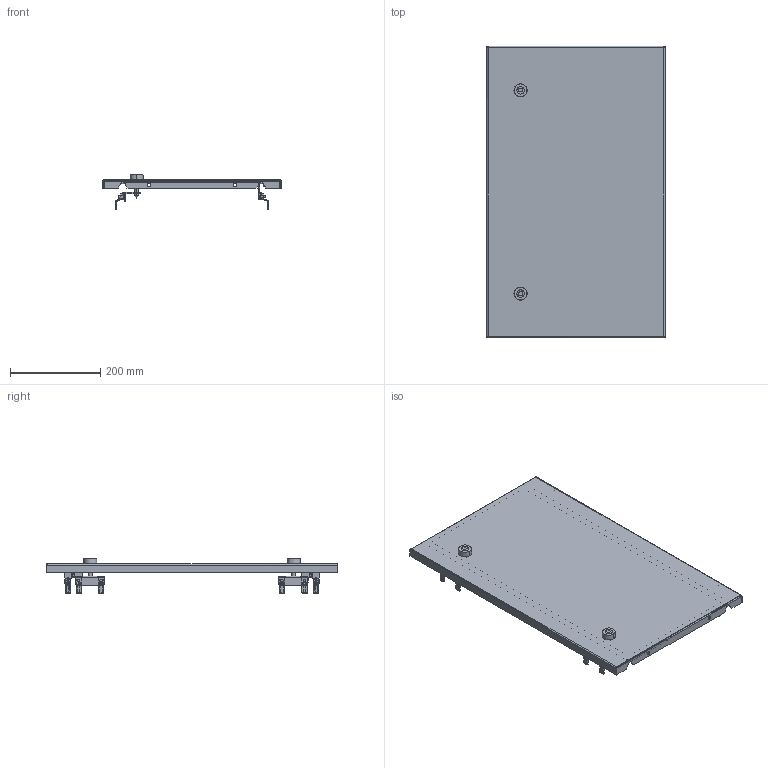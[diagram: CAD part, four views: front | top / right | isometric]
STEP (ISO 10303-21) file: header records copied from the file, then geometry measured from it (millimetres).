
FILE_DESCRIPTION(('CAx-IF Rec.Pracs.---Model Styling and Organization---1.2---2011-12-15','CAx-IF Rec.Pracs.---Geometric and Assembly Validation Properties---4.1---2014-06-16','CAx-IF Rec.Pracs.---PMI Polyline Presentation---2.0---2013-05-24'),'2;1');
FILE_NAME('R5CPMEM4650.stp','2021-05-06T03:50:52+03:00',(''),(''),'STEP Interface 4.4 by CT CoreTechnologie','3D_Evolution4.4 by CT CoreTechnologie','');
FILE_SCHEMA(('AUTOMOTIVE_DESIGN { 1 0 10303 214 1 1 1 1 }'));
Length unit declared in the file: millimetre
Products named in the file (18): R5CPMEM4650; M6 x 16-DIN 7991 ISR_thread; AC00C485; RB.0556.00.00.3 ÑÁ_-28; RB.0556.00.01.1_-28; PF 7x14 R5PKEB_0650x0400; AC00C061_AC00C061; Ì6õ12-A5100231_straight; Ì6õ12-A5100231_thread; AC00C266; M6 x 16-DIN 7991 ISR_stright; RB.0687.00.00.1; MS737-1-1(1); MS737-1-1 stop_fixed; MS737-1-1 Z_ ªàëâ; AC00C745; RB.0116.00.00.2_-00; MS737-1-1(2)
Assembly tree (39 placements, depth 3):
  R5CPMEM4650
    M6 x 16-DIN 7991 ISR_thread  x4
    AC00C485  x8
    RB.0556.00.00.3 ÑÁ_-28
      RB.0556.00.01.1_-28
      PF 7x14 R5PKEB_0650x0400
      AC00C061_AC00C061  x3
      Ì6õ12-A5100231_straight
      Ì6õ12-A5100231_thread  x2
      AC00C266  x2
    M6 x 16-DIN 7991 ISR_stright  x4
    RB.0687.00.00.1  x2
    MS737-1-1(1)
      MS737-1-1 stop_fixed
      MS737-1-1 Z_ ªàëâ
    AC00C745  x2
    RB.0116.00.00.2_-00  x2
    MS737-1-1(2)
      MS737-1-1 stop_fixed
      MS737-1-1 Z_ ªàëâ
Bounding box: 394 x 645 x 77.95 mm (x, y, z)
Surface area: 714276.4 mm2 (no closed solid volume)
Topology: 0 solids, 58 shells, 2316 faces, 6073 edges, 3855 vertices
Faces by surface type: bspline 860, cylinder 768, plane 688
Entity records: 35330 total; most frequent: CARTESIAN_POINT 11726, ORIENTED_EDGE 4944, DIRECTION 4595, EDGE_CURVE 2472, AXIS2_PLACEMENT_3D 1672, VERTEX_POINT 1595, VECTOR 1251, LINE 1251
